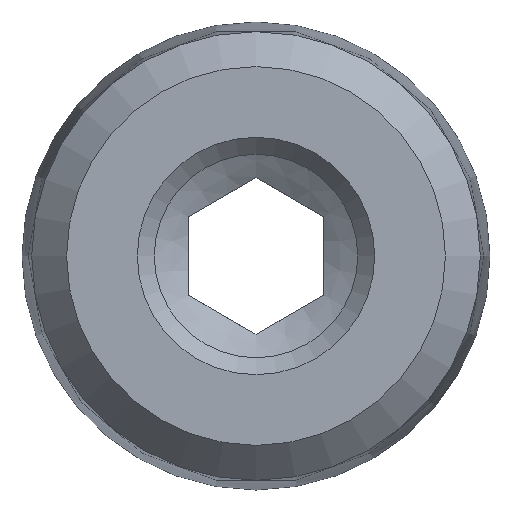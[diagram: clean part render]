
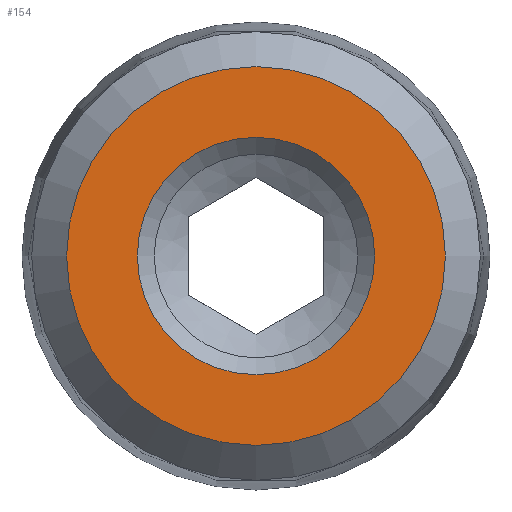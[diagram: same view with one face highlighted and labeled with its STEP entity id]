
A CAD part, front view. The second image highlights one B-rep face of the part: STEP entity #154.
In plain terms, the highlighted planar face has unit normal (0, -1, 0).
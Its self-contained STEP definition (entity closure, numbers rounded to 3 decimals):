
#123=CARTESIAN_POINT('',(5.586,0.0,0.));
#124=VERTEX_POINT('',#123);
#125=CARTESIAN_POINT('',(0.0,0.0,0.0));
#126=DIRECTION('',(0.0,1.0,0.0));
#127=DIRECTION('',(-1.0,0.0,0.0));
#128=AXIS2_PLACEMENT_3D('',#125,#126,#127);
#129=CIRCLE('',#128,5.586);
#130=EDGE_CURVE('',#124,#124,#129,.T.);
#135=CARTESIAN_POINT('',(3.293,0.0,0.0));
#136=DIRECTION('',(0.0,-1.0,0.0));
#137=DIRECTION('',(0.0,0.0,-1.0));
#138=AXIS2_PLACEMENT_3D('',#135,#136,#137);
#139=PLANE('',#138);
#140=ORIENTED_EDGE('',*,*,#130,.F.);
#141=EDGE_LOOP('',(#140));
#142=FACE_OUTER_BOUND('',#141,.T.);
#143=CARTESIAN_POINT('',(0.,0.0,3.5));
#144=VERTEX_POINT('',#143);
#145=CARTESIAN_POINT('',(0.0,0.0,0.));
#146=DIRECTION('',(0.0,-1.0,0.0));
#147=DIRECTION('',(0.0,0.0,-1.0));
#148=AXIS2_PLACEMENT_3D('',#145,#146,#147);
#149=CIRCLE('',#148,3.5);
#150=EDGE_CURVE('',#144,#144,#149,.T.);
#151=ORIENTED_EDGE('',*,*,#150,.F.);
#152=EDGE_LOOP('',(#151));
#153=FACE_BOUND('',#152,.T.);
#154=ADVANCED_FACE('',(#142,#153),#139,.T.);
